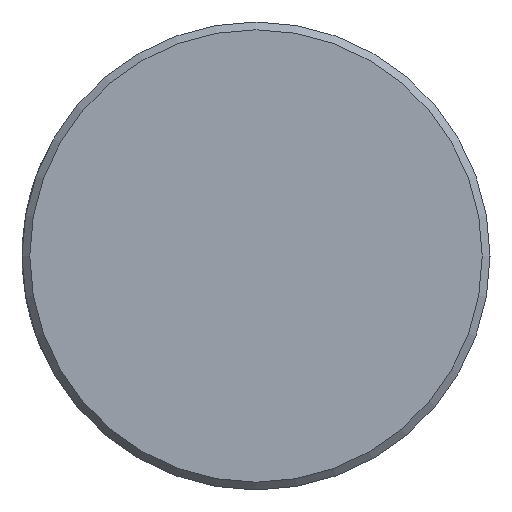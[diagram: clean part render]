
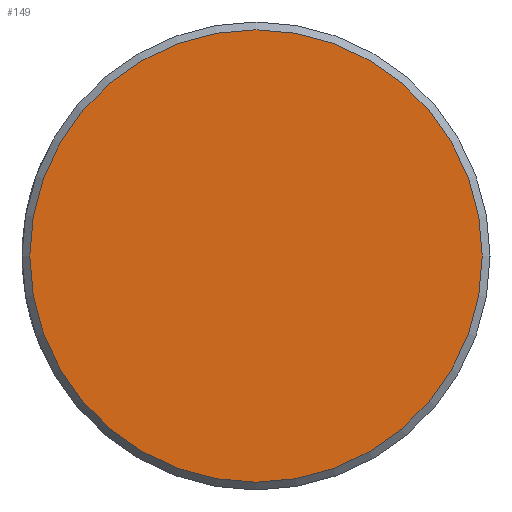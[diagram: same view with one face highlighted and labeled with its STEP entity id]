
A CAD part, left-side view. The second image highlights one B-rep face of the part: STEP entity #149.
In plain terms, the highlighted planar face has unit normal (-1, 0, 0).
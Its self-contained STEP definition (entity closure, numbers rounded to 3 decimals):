
#30=FACE_OUTER_BOUND('',#40,.T.);
#40=EDGE_LOOP('',(#117));
#66=CIRCLE('',#185,5.8);
#78=VERTEX_POINT('',#307);
#94=EDGE_CURVE('',#78,#78,#66,.T.);
#117=ORIENTED_EDGE('',*,*,#94,.F.);
#142=PLANE('',#184);
#149=ADVANCED_FACE('',(#30),#142,.T.);
#184=AXIS2_PLACEMENT_3D('',#306,#215,#216);
#185=AXIS2_PLACEMENT_3D('',#308,#217,#218);
#215=DIRECTION('center_axis',(-1.,0.,0.));
#216=DIRECTION('ref_axis',(0.,0.,1.));
#217=DIRECTION('center_axis',(1.,0.,0.));
#218=DIRECTION('ref_axis',(0.,0.,-1.));
#306=CARTESIAN_POINT('Origin',(-30.,5.8,0.));
#307=CARTESIAN_POINT('',(-30.,-5.8,0.));
#308=CARTESIAN_POINT('Origin',(-30.,0.,0.));
